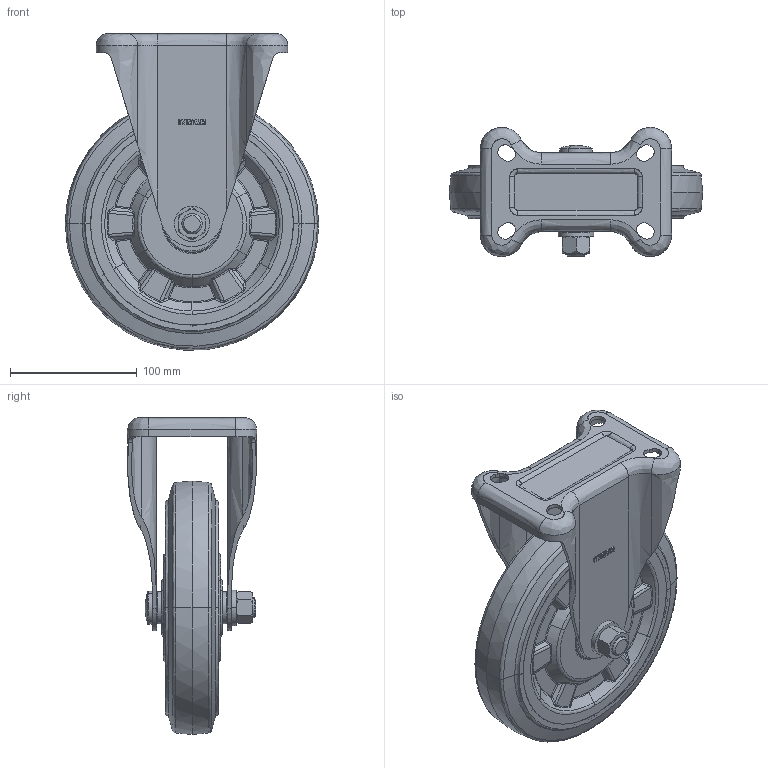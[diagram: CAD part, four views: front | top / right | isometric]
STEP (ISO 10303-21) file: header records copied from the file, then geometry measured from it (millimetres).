
FILE_DESCRIPTION (( 'STEP AP214' ), '1' );
FILE_NAME ('GR-200WK.STEP', '2022-08-24T08:49:14', ( '' ), ( '' ), 'SwSTEP 2.0', 'SolidWorks 2010', '' );
FILE_SCHEMA (( 'AUTOMOTIVE_DESIGN' ));
Length unit declared in the file: millimetre
Products named in the file (9): GR-200WK-20; GR-200WK-40; GR-200WK-25; GR-200WK-10; GR-200WK-15; GR-200WK-35; GR-200WK-45; GR-200WK-30; GR-200WK
Assembly tree (8 placements, depth 2):
  GR-200WK
    GR-200WK-15
    GR-200WK-10
    GR-200WK-20
    GR-200WK-40
    GR-200WK-30
    GR-200WK-25
    GR-200WK-45
    GR-200WK-35
Bounding box: 200 x 101.99 x 249.83 mm (x, y, z)
Volume: 610987.6 mm3; surface area: 350912 mm2
Topology: 14 solids, 14 shells, 1293 faces, 4057 edges, 2740 vertices
Faces by surface type: bspline 1115, plane 178
Entity records: 295375 total; most frequent: CARTESIAN_POINT 255187, ORIENTED_EDGE 7974, EDGE_CURVE 3987, B_SPLINE_CURVE_WITH_KNOTS 3494, VERTEX_POINT 2740, EDGE_LOOP 1347, UNCERTAINTY_MEASURE_WITH_UNIT 1324, FILL_AREA_STYLE_COLOUR 1315
